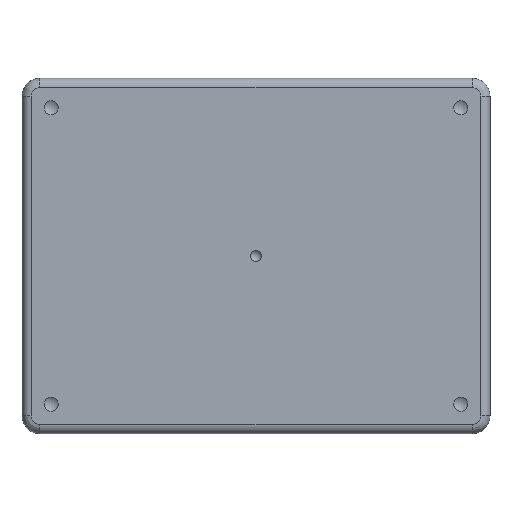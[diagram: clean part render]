
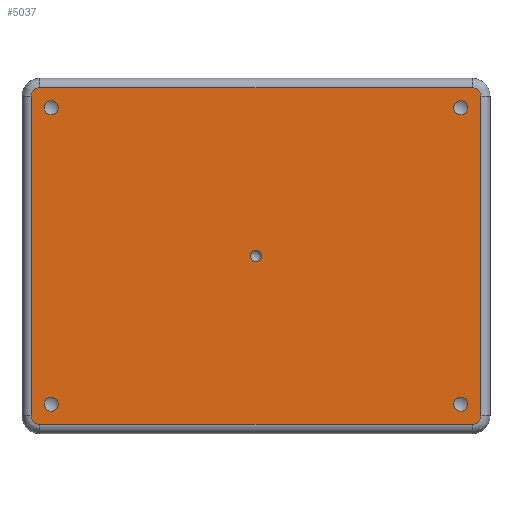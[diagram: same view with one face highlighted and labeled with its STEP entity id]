
A CAD part, front view. The second image highlights one B-rep face of the part: STEP entity #5037.
In plain terms, the highlighted planar face has unit normal (0, -1, 0).
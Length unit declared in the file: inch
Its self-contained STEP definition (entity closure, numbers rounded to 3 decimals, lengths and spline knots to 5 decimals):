
#135=FACE_BOUND('',#1174,.T.);
#136=FACE_BOUND('',#1175,.T.);
#137=FACE_BOUND('',#1176,.T.);
#138=FACE_BOUND('',#1177,.T.);
#139=FACE_BOUND('',#1178,.T.);
#357=CIRCLE('',#5463,0.093);
#358=CIRCLE('',#5465,0.093);
#359=CIRCLE('',#5467,0.093);
#360=CIRCLE('',#5469,0.093);
#361=CIRCLE('',#5471,0.07502);
#477=CIRCLE('',#5645,0.11288);
#478=CIRCLE('',#5646,0.11288);
#479=CIRCLE('',#5647,0.11288);
#480=CIRCLE('',#5648,0.11288);
#863=FACE_OUTER_BOUND('',#1173,.T.);
#1173=EDGE_LOOP('',(#4210,#4211,#4212,#4213,#4214,#4215,#4216,#4217));
#1174=EDGE_LOOP('',(#4218));
#1175=EDGE_LOOP('',(#4219));
#1176=EDGE_LOOP('',(#4220));
#1177=EDGE_LOOP('',(#4221));
#1178=EDGE_LOOP('',(#4222));
#1554=LINE('',#8703,#1872);
#1556=LINE('',#8712,#1874);
#1558=LINE('',#8721,#1876);
#1559=LINE('',#8727,#1877);
#1872=VECTOR('',#6981,39.37008);
#1874=VECTOR('',#6989,39.37008);
#1876=VECTOR('',#6997,39.37008);
#1877=VECTOR('',#7004,39.37008);
#2214=VERTEX_POINT('',#8332);
#2215=VERTEX_POINT('',#8335);
#2216=VERTEX_POINT('',#8338);
#2217=VERTEX_POINT('',#8341);
#2218=VERTEX_POINT('',#8344);
#2344=VERTEX_POINT('',#8696);
#2347=VERTEX_POINT('',#8701);
#2349=VERTEX_POINT('',#8706);
#2351=VERTEX_POINT('',#8710);
#2352=VERTEX_POINT('',#8714);
#2355=VERTEX_POINT('',#8719);
#2356=VERTEX_POINT('',#8723);
#2357=VERTEX_POINT('',#8725);
#2855=EDGE_CURVE('',#2214,#2214,#357,.T.);
#2856=EDGE_CURVE('',#2215,#2215,#358,.T.);
#2857=EDGE_CURVE('',#2216,#2216,#359,.T.);
#2858=EDGE_CURVE('',#2217,#2217,#360,.T.);
#2859=EDGE_CURVE('',#2218,#2218,#361,.T.);
#3012=EDGE_CURVE('',#2344,#2347,#1554,.T.);
#3016=EDGE_CURVE('',#2349,#2351,#1556,.T.);
#3020=EDGE_CURVE('',#2352,#2355,#1558,.T.);
#3023=EDGE_CURVE('',#2356,#2357,#1559,.T.);
#3068=EDGE_CURVE('',#2347,#2349,#477,.T.);
#3069=EDGE_CURVE('',#2351,#2356,#478,.T.);
#3070=EDGE_CURVE('',#2357,#2352,#479,.T.);
#3071=EDGE_CURVE('',#2355,#2344,#480,.T.);
#4210=ORIENTED_EDGE('',*,*,#3012,.T.);
#4211=ORIENTED_EDGE('',*,*,#3068,.T.);
#4212=ORIENTED_EDGE('',*,*,#3016,.T.);
#4213=ORIENTED_EDGE('',*,*,#3069,.T.);
#4214=ORIENTED_EDGE('',*,*,#3023,.T.);
#4215=ORIENTED_EDGE('',*,*,#3070,.T.);
#4216=ORIENTED_EDGE('',*,*,#3020,.T.);
#4217=ORIENTED_EDGE('',*,*,#3071,.T.);
#4218=ORIENTED_EDGE('',*,*,#2859,.T.);
#4219=ORIENTED_EDGE('',*,*,#2855,.F.);
#4220=ORIENTED_EDGE('',*,*,#2856,.T.);
#4221=ORIENTED_EDGE('',*,*,#2857,.T.);
#4222=ORIENTED_EDGE('',*,*,#2858,.F.);
#4802=PLANE('',#5644);
#5037=ADVANCED_FACE('',(#863,#135,#136,#137,#138,#139),#4802,.F.);
#5463=AXIS2_PLACEMENT_3D('',#8333,#6652,#6653);
#5465=AXIS2_PLACEMENT_3D('',#8336,#6656,#6657);
#5467=AXIS2_PLACEMENT_3D('',#8339,#6660,#6661);
#5469=AXIS2_PLACEMENT_3D('',#8342,#6664,#6665);
#5471=AXIS2_PLACEMENT_3D('',#8345,#6668,#6669);
#5644=AXIS2_PLACEMENT_3D('',#8808,#7081,#7082);
#5645=AXIS2_PLACEMENT_3D('',#8809,#7083,#7084);
#5646=AXIS2_PLACEMENT_3D('',#8810,#7085,#7086);
#5647=AXIS2_PLACEMENT_3D('',#8811,#7087,#7088);
#5648=AXIS2_PLACEMENT_3D('',#8812,#7089,#7090);
#6652=DIRECTION('center_axis',(0.,-1.,0.));
#6653=DIRECTION('ref_axis',(0.,0.,1.));
#6656=DIRECTION('center_axis',(0.,1.,0.));
#6657=DIRECTION('ref_axis',(0.,0.,-1.));
#6660=DIRECTION('center_axis',(0.,1.,0.));
#6661=DIRECTION('ref_axis',(0.,0.,1.));
#6664=DIRECTION('center_axis',(0.,-1.,0.));
#6665=DIRECTION('ref_axis',(0.,0.,-1.));
#6668=DIRECTION('center_axis',(0.,1.,0.));
#6669=DIRECTION('ref_axis',(-1.,0.,0.));
#6981=DIRECTION('',(-1.,0.,0.));
#6989=DIRECTION('',(0.,0.,-1.));
#6997=DIRECTION('',(0.,0.,1.));
#7004=DIRECTION('',(1.,0.,0.));
#7081=DIRECTION('center_axis',(0.,1.,0.));
#7082=DIRECTION('ref_axis',(0.,0.,1.));
#7083=DIRECTION('center_axis',(0.,-1.,0.));
#7084=DIRECTION('ref_axis',(0.,0.,1.));
#7085=DIRECTION('center_axis',(0.,-1.,0.));
#7086=DIRECTION('ref_axis',(0.,0.,1.));
#7087=DIRECTION('center_axis',(0.,-1.,0.));
#7088=DIRECTION('ref_axis',(0.,0.,1.));
#7089=DIRECTION('center_axis',(0.,-1.,0.));
#7090=DIRECTION('ref_axis',(0.,0.,1.));
#8332=CARTESIAN_POINT('',(2.72,-1.25,-2.063));
#8333=CARTESIAN_POINT('Origin',(2.72,-1.25,-1.97));
#8335=CARTESIAN_POINT('',(2.72,-1.25,2.063));
#8336=CARTESIAN_POINT('Origin',(2.72,-1.25,1.97));
#8338=CARTESIAN_POINT('',(-2.72,-1.25,-2.063));
#8339=CARTESIAN_POINT('Origin',(-2.72,-1.25,-1.97));
#8341=CARTESIAN_POINT('',(-2.72,-1.25,2.063));
#8342=CARTESIAN_POINT('Origin',(-2.72,-1.25,1.97));
#8344=CARTESIAN_POINT('',(0.07502,-1.25,0.));
#8345=CARTESIAN_POINT('Origin',(0.,-1.25,0.));
#8696=CARTESIAN_POINT('',(2.8695,-1.25,2.23488));
#8701=CARTESIAN_POINT('',(-2.8695,-1.25,2.23488));
#8703=CARTESIAN_POINT('',(-2.8695,-1.25,2.23488));
#8706=CARTESIAN_POINT('',(-2.98238,-1.25,2.122));
#8710=CARTESIAN_POINT('',(-2.98238,-1.25,-2.122));
#8712=CARTESIAN_POINT('',(-2.98238,-1.25,-2.122));
#8714=CARTESIAN_POINT('',(2.98238,-1.25,-2.122));
#8719=CARTESIAN_POINT('',(2.98238,-1.25,2.122));
#8721=CARTESIAN_POINT('',(2.98238,-1.25,2.122));
#8723=CARTESIAN_POINT('',(-2.8695,-1.25,-2.23488));
#8725=CARTESIAN_POINT('',(2.8695,-1.25,-2.23488));
#8727=CARTESIAN_POINT('',(2.8695,-1.25,-2.23488));
#8808=CARTESIAN_POINT('Origin',(-2.8695,-1.25,2.122));
#8809=CARTESIAN_POINT('Origin',(-2.8695,-1.25,2.122));
#8810=CARTESIAN_POINT('Origin',(-2.8695,-1.25,-2.122));
#8811=CARTESIAN_POINT('Origin',(2.8695,-1.25,-2.122));
#8812=CARTESIAN_POINT('Origin',(2.8695,-1.25,2.122));
